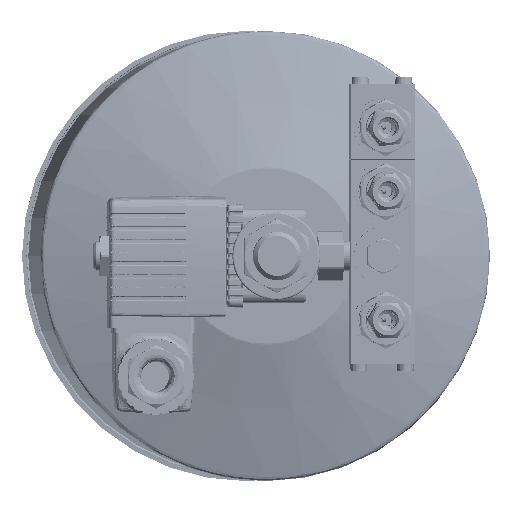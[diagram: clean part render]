
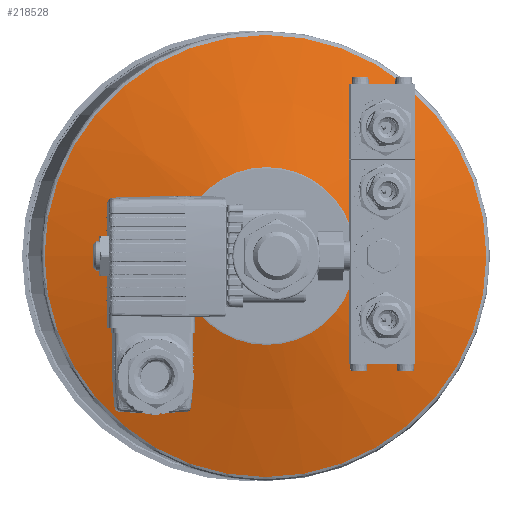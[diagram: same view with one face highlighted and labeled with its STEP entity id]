
A CAD part, left-side view. The second image highlights one B-rep face of the part: STEP entity #218528.
In plain terms, the highlighted conical face has half-angle 73.997 degrees and reference radius 75.769 mm.
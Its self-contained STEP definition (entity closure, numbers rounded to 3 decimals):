
#3869 = CARTESIAN_POINT ( 'NONE',  ( 73.466, 0., 0. ) ) ;
#5588 = ORIENTED_EDGE ( 'NONE', *, *, #20906, .T. ) ;
#11649 = VERTEX_POINT ( 'NONE', #254418 ) ;
#20906 = EDGE_CURVE ( 'NONE', #218970, #218970, #27126, .T. ) ;
#27126 = CIRCLE ( 'NONE', #208640, 75.769 ) ;
#50359 = AXIS2_PLACEMENT_3D ( 'NONE', #3869, #298464, #175335 ) ;
#52026 = FACE_OUTER_BOUND ( 'NONE', #217068, .T. ) ;
#77930 = DIRECTION ( 'NONE',  ( 1., 0., 0. ) ) ;
#81192 = EDGE_CURVE ( 'NONE', #11649, #11649, #241449, .T. ) ;
#91772 = CONICAL_SURFACE ( 'NONE', #133120, 75.769, 1.291 ) ;
#111447 = ORIENTED_EDGE ( 'NONE', *, *, #81192, .T. ) ;
#133120 = AXIS2_PLACEMENT_3D ( 'NONE', #149079, #77930, #199239 ) ;
#136102 = DIRECTION ( 'NONE',  ( -1., 0., 0. ) ) ;
#141745 = EDGE_LOOP ( 'NONE', ( #111447 ) ) ;
#149079 = CARTESIAN_POINT ( 'NONE',  ( 86.458, 0., 0. ) ) ;
#175335 = DIRECTION ( 'NONE',  ( 0., -1., 0. ) ) ;
#199239 = DIRECTION ( 'NONE',  ( 0., 0., -1. ) ) ;
#208640 = AXIS2_PLACEMENT_3D ( 'NONE', #230113, #136102, #210558 ) ;
#210558 = DIRECTION ( 'NONE',  ( 0., -1., 0. ) ) ;
#217068 = EDGE_LOOP ( 'NONE', ( #5588 ) ) ;
#218528 = ADVANCED_FACE ( 'NONE', ( #52026, #296500 ), #91772, .T. ) ;
#218970 = VERTEX_POINT ( 'NONE', #265978 ) ;
#230113 = CARTESIAN_POINT ( 'NONE',  ( 86.458, 0., 0. ) ) ;
#241449 = CIRCLE ( 'NONE', #50359, 30.469 ) ;
#254418 = CARTESIAN_POINT ( 'NONE',  ( 73.466, -30.469, 0. ) ) ;
#265978 = CARTESIAN_POINT ( 'NONE',  ( 86.458, -75.769, 0. ) ) ;
#296500 = FACE_BOUND ( 'NONE', #141745, .T. ) ;
#298464 = DIRECTION ( 'NONE',  ( 1., 0., 0. ) ) ;
